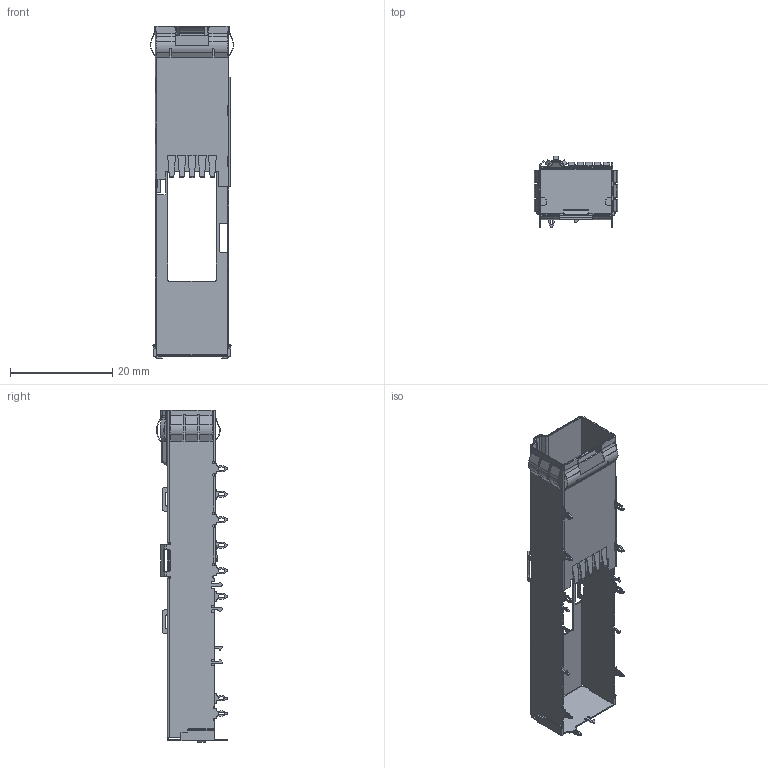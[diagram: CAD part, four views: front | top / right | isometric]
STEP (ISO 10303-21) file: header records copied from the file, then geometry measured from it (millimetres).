
FILE_DESCRIPTION (( 'STEP AP203' ), '1' );
FILE_NAME ('SFP-DD 1X1纯笼子带散热器开孔3D.STEP', '2025-07-16T09:36:12', ( '' ), ( '' ), 'SwSTEP 2.0', 'SolidWorks 2018', '' );
FILE_SCHEMA (( 'CONFIG_CONTROL_DESIGN' ));
Length unit declared in the file: millimetre
Products named in the file (1): SFP-DD 1X1纯笼子带散热器开孔3D
Bounding box: 16.34 x 13.89 x 65.08 mm (x, y, z)
Volume: 622.9 mm3; surface area: 5213.5 mm2
Topology: 3 solids, 3 shells, 1227 faces, 3303 edges, 2054 vertices
Faces by surface type: plane 632, cylinder 530, bspline 54, cone 7, sphere 4
Entity records: 40096 total; most frequent: CARTESIAN_POINT 9113, ORIENTED_EDGE 6598, DIRECTION 6432, EDGE_CURVE 3299, AXIS2_PLACEMENT_3D 2176, VECTOR 2080, LINE 2080, VERTEX_POINT 2054
